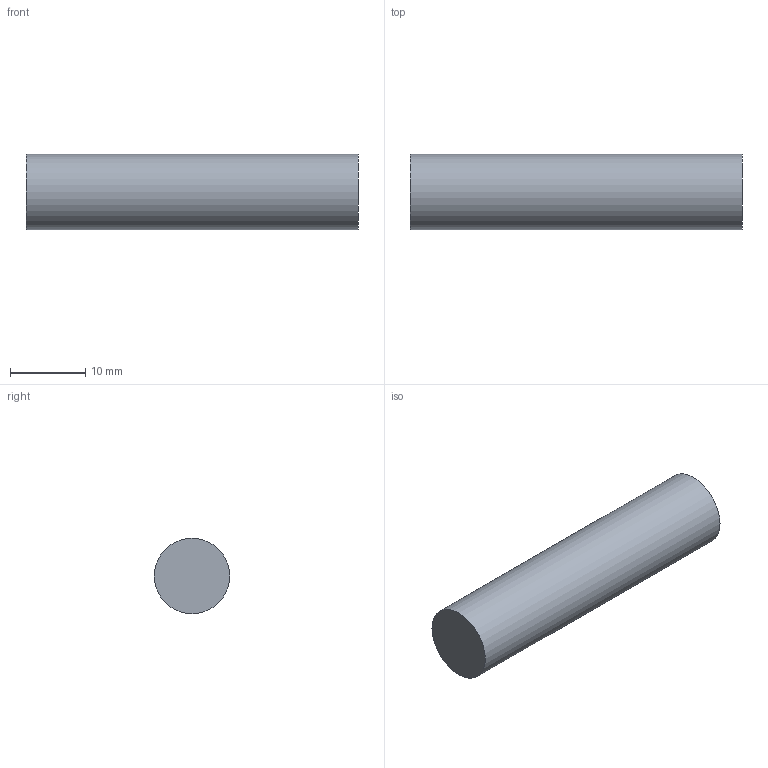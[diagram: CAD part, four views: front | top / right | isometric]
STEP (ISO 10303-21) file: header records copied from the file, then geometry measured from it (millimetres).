
FILE_DESCRIPTION(('Open CASCADE Model'),'2;1');
FILE_NAME('Open CASCADE Shape Model','2026-09-19T23:46:41',('Author'),( 'Open CASCADE'),'Open CASCADE STEP processor 7.9','Open CASCADE 7.9' ,'Unknown');
FILE_SCHEMA(('AUTOMOTIVE_DESIGN { 1 0 10303 214 1 1 1 1 }'));
Length unit declared in the file: millimetre
Products named in the file (1): Open CASCADE STEP translator 7.9 90
Bounding box: 44 x 10 x 10 mm (x, y, z)
Volume: 3455.8 mm3; surface area: 1539.4 mm2
Topology: 1 solids, 1 shells, 3 faces, 3 edges, 2 vertices
Faces by surface type: plane 2, cylinder 1
Full cylindrical faces by diameter (mm): 10 x1
Entity records: 108 total; most frequent: DIRECTION 19, CARTESIAN_POINT 15, AXIS2_PLACEMENT_3D 6, ORIENTED_EDGE 6, PCURVE 6, DEFINITIONAL_REPRESENTATION 6, LINE 5, VECTOR 5
